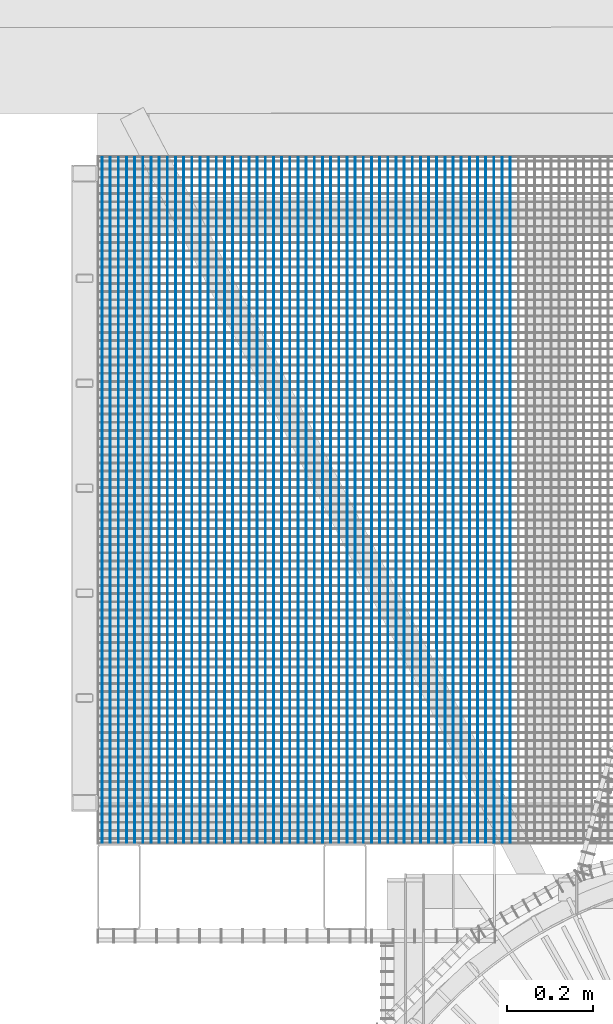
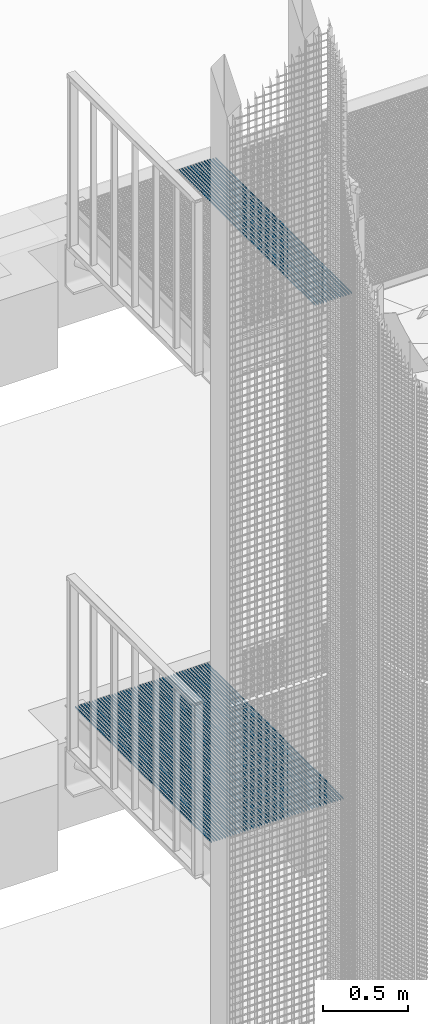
# One storey, part 79 of 1148: 62 beams, 2 elements without a shape of their own.
"""IFC2X3 building model written with IfcOpenShell, lengths in millimetres."""

from ifc_helpers import new_model, si_unit, frame, origin_with_axes, origin_2d_with_axis, place, context, subcontext, project, spatial, rectangle, extrude, material, type_object, element, aggregate, save


model = new_model("IFC2X3")

# Units and contexts
model_context = context("Model", 3, precision=1e-05, world=origin_with_axes())
body_context = subcontext(model_context, "Body", "Model", "MODEL_VIEW")
ifc_project = project(units=[si_unit("LENGTHUNIT", "METRE", prefix="MILLI"), si_unit("AREAUNIT", "SQUARE_METRE"), si_unit("VOLUMEUNIT", "CUBIC_METRE"), si_unit("MASSUNIT", "GRAM", prefix="KILO"), si_unit("TIMEUNIT", "SECOND"), si_unit("PLANEANGLEUNIT", "RADIAN"), si_unit("SOLIDANGLEUNIT", "STERADIAN"), si_unit("THERMODYNAMICTEMPERATUREUNIT", "DEGREE_CELSIUS"), si_unit("LUMINOUSINTENSITYUNIT", "LUMEN")], contexts=[model_context])

# Site, building, storey
site_placement = place(None, origin_with_axes())
site = spatial("IfcSite", under=ifc_project, at=site_placement, Name="Undefined", CompositionType="ELEMENT")
building_placement = place(site_placement, origin_with_axes())
building = spatial("IfcBuilding", under=site, at=building_placement, Name="Undefined", CompositionType="ELEMENT")
storey_placement = place(building_placement, origin_with_axes())
storey = spatial("IfcBuildingStorey", under=building, at=storey_placement, Name="Undefined", CompositionType="ELEMENT", Elevation=0.0)

# Assembly, beams
assembly_1_placement = place(storey_placement, origin_with_axes())
assembly_1 = element("IfcElementAssembly", 1, at=assembly_1_placement, inside=storey, Name="BORDURE", AssemblyPlace="NOTDEFINED", PredefinedType="NOTDEFINED")
ifc_material = material(Name="STEEL/S235JR")
beam_type = type_object("IfcBeamType", Name="PL2*10", PredefinedType="NOTDEFINED")
beam_1_placement = place(assembly_1_placement, frame((-835.924575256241, 1101.99820422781, 13685.0), z_axis=(0.0, 0.0, 1.0), x_axis=(-4.50599999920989e-06, 0.999999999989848, 0.0)))
beam_1 = element("IfcBeam", 2, at=beam_1_placement, type_object=beam_type, material=ifc_material, Name="ENTRETOISE", context=body_context, shape_type="SweptSolid", body=[
    extrude(rectangle(XDim=2.0, YDim=10.0, at=origin_2d_with_axis()), frame((1596.0000000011, -1.35186458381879e-18, -7.27595761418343e-12), z_axis=(-1.0, 0.0, 0.0), x_axis=(0.0, -1.0, 0.0)), (0.0, 0.0, 1.0), 1596.0),
])
beam_2_placement = place(assembly_1_placement, frame((-816.924575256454, 1101.99829774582, 13685.0), z_axis=(0.0, 0.0, 1.0), x_axis=(-4.50599999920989e-06, 0.999999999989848, 0.0)))
beam_2 = element("IfcBeam", 3, at=beam_2_placement, type_object=beam_type, material=ifc_material, Name="ENTRETOISE", context=body_context, shape_type="SweptSolid", body=[
    extrude(rectangle(XDim=2.0, YDim=10.0, at=origin_2d_with_axis()), frame((1596.0000000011, -1.35186458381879e-18, -7.27595761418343e-12), z_axis=(-1.0, 0.0, 0.0), x_axis=(0.0, -1.0, 0.0)), (0.0, 0.0, 1.0), 1596.0),
])
beam_3_placement = place(assembly_1_placement, frame((-797.924575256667, 1101.99839126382, 13685.0), z_axis=(0.0, 0.0, 1.0), x_axis=(-4.50599999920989e-06, 0.999999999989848, 0.0)))
beam_3 = element("IfcBeam", 4, at=beam_3_placement, type_object=beam_type, material=ifc_material, Name="ENTRETOISE", context=body_context, shape_type="SweptSolid", body=[
    extrude(rectangle(XDim=2.0, YDim=10.0, at=origin_2d_with_axis()), frame((1596.0000000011, -1.35186458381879e-18, -7.27595761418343e-12), z_axis=(-1.0, 0.0, 0.0), x_axis=(0.0, -1.0, 0.0)), (0.0, 0.0, 1.0), 1596.0),
])
beam_4_placement = place(assembly_1_placement, frame((-778.924575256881, 1101.99848478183, 13685.0), z_axis=(0.0, 0.0, 1.0), x_axis=(-4.50599999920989e-06, 0.999999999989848, 0.0)))
beam_4 = element("IfcBeam", 5, at=beam_4_placement, type_object=beam_type, material=ifc_material, Name="ENTRETOISE", context=body_context, shape_type="SweptSolid", body=[
    extrude(rectangle(XDim=2.0, YDim=10.0, at=origin_2d_with_axis()), frame((1596.0000000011, -1.35186458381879e-18, -7.27595761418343e-12), z_axis=(-1.0, 0.0, 0.0), x_axis=(0.0, -1.0, 0.0)), (0.0, 0.0, 1.0), 1596.0),
])
beam_5_placement = place(assembly_1_placement, frame((-759.924575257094, 1101.99857829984, 13685.0), z_axis=(0.0, 0.0, 1.0), x_axis=(-4.50599999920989e-06, 0.999999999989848, 0.0)))
beam_5 = element("IfcBeam", 6, at=beam_5_placement, type_object=beam_type, material=ifc_material, Name="ENTRETOISE", context=body_context, shape_type="SweptSolid", body=[
    extrude(rectangle(XDim=2.0, YDim=10.0, at=origin_2d_with_axis()), frame((1596.0000000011, -1.35186458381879e-18, -7.27595761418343e-12), z_axis=(-1.0, 0.0, 0.0), x_axis=(0.0, -1.0, 0.0)), (0.0, 0.0, 1.0), 1596.0),
])
beam_6_placement = place(assembly_1_placement, frame((-740.924575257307, 1101.99867181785, 13685.0), z_axis=(0.0, 0.0, 1.0), x_axis=(-4.50599999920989e-06, 0.999999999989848, 0.0)))
beam_6 = element("IfcBeam", 7, at=beam_6_placement, type_object=beam_type, material=ifc_material, Name="ENTRETOISE", context=body_context, shape_type="SweptSolid", body=[
    extrude(rectangle(XDim=2.0, YDim=10.0, at=origin_2d_with_axis()), frame((1596.0000000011, -1.35186458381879e-18, -7.27595761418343e-12), z_axis=(-1.0, 0.0, 0.0), x_axis=(0.0, -1.0, 0.0)), (0.0, 0.0, 1.0), 1596.0),
])
beam_7_placement = place(assembly_1_placement, frame((-721.92457525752, 1101.99876533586, 13685.0), z_axis=(0.0, 0.0, 1.0), x_axis=(-4.50599999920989e-06, 0.999999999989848, 0.0)))
beam_7 = element("IfcBeam", 8, at=beam_7_placement, type_object=beam_type, material=ifc_material, Name="ENTRETOISE", context=body_context, shape_type="SweptSolid", body=[
    extrude(rectangle(XDim=2.0, YDim=10.0, at=origin_2d_with_axis()), frame((1596.0000000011, -1.35186458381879e-18, -7.27595761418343e-12), z_axis=(-1.0, 0.0, 0.0), x_axis=(0.0, -1.0, 0.0)), (0.0, 0.0, 1.0), 1596.0),
])
beam_8_placement = place(assembly_1_placement, frame((-702.924575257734, 1101.99885885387, 13685.0), z_axis=(0.0, 0.0, 1.0), x_axis=(-4.50599999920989e-06, 0.999999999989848, 0.0)))
beam_8 = element("IfcBeam", 9, at=beam_8_placement, type_object=beam_type, material=ifc_material, Name="ENTRETOISE", context=body_context, shape_type="SweptSolid", body=[
    extrude(rectangle(XDim=2.0, YDim=10.0, at=origin_2d_with_axis()), frame((1596.0000000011, -1.35186458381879e-18, -7.27595761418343e-12), z_axis=(-1.0, 0.0, 0.0), x_axis=(0.0, -1.0, 0.0)), (0.0, 0.0, 1.0), 1596.0),
])
beam_9_placement = place(assembly_1_placement, frame((-683.924575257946, 1101.99895237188, 13685.0), z_axis=(0.0, 0.0, 1.0), x_axis=(-4.50599999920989e-06, 0.999999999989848, 0.0)))
beam_9 = element("IfcBeam", 10, at=beam_9_placement, type_object=beam_type, material=ifc_material, Name="ENTRETOISE", context=body_context, shape_type="SweptSolid", body=[
    extrude(rectangle(XDim=2.0, YDim=10.0, at=origin_2d_with_axis()), frame((1596.0000000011, -1.35186458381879e-18, -7.27595761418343e-12), z_axis=(-1.0, 0.0, 0.0), x_axis=(0.0, -1.0, 0.0)), (0.0, 0.0, 1.0), 1596.0),
])
beam_10_placement = place(assembly_1_placement, frame((-664.92457525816, 1101.99904588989, 13685.0), z_axis=(0.0, 0.0, 1.0), x_axis=(-4.50599999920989e-06, 0.999999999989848, 0.0)))
beam_10 = element("IfcBeam", 11, at=beam_10_placement, type_object=beam_type, material=ifc_material, Name="ENTRETOISE", context=body_context, shape_type="SweptSolid", body=[
    extrude(rectangle(XDim=2.0, YDim=10.0, at=origin_2d_with_axis()), frame((1596.0000000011, -1.35186458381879e-18, -7.27595761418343e-12), z_axis=(-1.0, 0.0, 0.0), x_axis=(0.0, -1.0, 0.0)), (0.0, 0.0, 1.0), 1596.0),
])
beam_11_placement = place(assembly_1_placement, frame((-645.924575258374, 1101.9991394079, 13685.0), z_axis=(0.0, 0.0, 1.0), x_axis=(-4.50599999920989e-06, 0.999999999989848, 0.0)))
beam_11 = element("IfcBeam", 12, at=beam_11_placement, type_object=beam_type, material=ifc_material, Name="ENTRETOISE", context=body_context, shape_type="SweptSolid", body=[
    extrude(rectangle(XDim=2.0, YDim=10.0, at=origin_2d_with_axis()), frame((1596.0000000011, -1.35186458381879e-18, -7.27595761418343e-12), z_axis=(-1.0, 0.0, 0.0), x_axis=(0.0, -1.0, 0.0)), (0.0, 0.0, 1.0), 1596.0),
])
beam_12_placement = place(assembly_1_placement, frame((-626.924575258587, 1101.99923292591, 13685.0), z_axis=(0.0, 0.0, 1.0), x_axis=(-4.50599999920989e-06, 0.999999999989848, 0.0)))
beam_12 = element("IfcBeam", 13, at=beam_12_placement, type_object=beam_type, material=ifc_material, Name="ENTRETOISE", context=body_context, shape_type="SweptSolid", body=[
    extrude(rectangle(XDim=2.0, YDim=10.0, at=origin_2d_with_axis()), frame((1596.0000000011, -1.35186458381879e-18, -7.27595761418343e-12), z_axis=(-1.0, 0.0, 0.0), x_axis=(0.0, -1.0, 0.0)), (0.0, 0.0, 1.0), 1596.0),
])
beam_13_placement = place(assembly_1_placement, frame((-607.924575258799, 1101.99932644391, 13685.0), z_axis=(0.0, 0.0, 1.0), x_axis=(-4.50599999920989e-06, 0.999999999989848, 0.0)))
beam_13 = element("IfcBeam", 14, at=beam_13_placement, type_object=beam_type, material=ifc_material, Name="ENTRETOISE", context=body_context, shape_type="SweptSolid", body=[
    extrude(rectangle(XDim=2.0, YDim=10.0, at=origin_2d_with_axis()), frame((1596.0000000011, -1.35186458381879e-18, -7.27595761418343e-12), z_axis=(-1.0, 0.0, 0.0), x_axis=(0.0, -1.0, 0.0)), (0.0, 0.0, 1.0), 1596.0),
])
beam_14_placement = place(assembly_1_placement, frame((-588.924575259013, 1101.99941996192, 13685.0), z_axis=(0.0, 0.0, 1.0), x_axis=(-4.50599999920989e-06, 0.999999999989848, 0.0)))
beam_14 = element("IfcBeam", 15, at=beam_14_placement, type_object=beam_type, material=ifc_material, Name="ENTRETOISE", context=body_context, shape_type="SweptSolid", body=[
    extrude(rectangle(XDim=2.0, YDim=10.0, at=origin_2d_with_axis()), frame((1596.0000000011, -1.35186458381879e-18, -7.27595761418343e-12), z_axis=(-1.0, 0.0, 0.0), x_axis=(0.0, -1.0, 0.0)), (0.0, 0.0, 1.0), 1596.0),
])
aggregate(assembly_1, [beam_1, beam_2, beam_3, beam_4, beam_5, beam_6, beam_7, beam_8, beam_9, beam_10, beam_11, beam_12, beam_13, beam_14])

assembly_2_placement = place(storey_placement, origin_with_axes())
assembly_2 = element("IfcElementAssembly", 16, at=assembly_2_placement, inside=storey, Name="BORDURE", AssemblyPlace="NOTDEFINED", PredefinedType="NOTDEFINED")
beam_15_placement = place(assembly_2_placement, frame((-1538.92457524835, 1101.99474406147, 10085.0), z_axis=(0.0, 0.0, 1.0), x_axis=(-4.50599999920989e-06, 0.999999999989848, 0.0)))
beam_15 = element("IfcBeam", 17, at=beam_15_placement, type_object=beam_type, material=ifc_material, Name="ENTRETOISE", context=body_context, shape_type="SweptSolid", body=[
    extrude(rectangle(XDim=2.0, YDim=10.0, at=origin_2d_with_axis()), frame((1596.0000000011, -1.35186458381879e-18, -7.27595761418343e-12), z_axis=(-1.0, 0.0, 0.0), x_axis=(0.0, -1.0, 0.0)), (0.0, 0.0, 1.0), 1596.0),
])
beam_16_placement = place(assembly_2_placement, frame((-1519.92457524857, 1101.99483757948, 10085.0), z_axis=(0.0, 0.0, 1.0), x_axis=(-4.50599999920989e-06, 0.999999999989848, 0.0)))
beam_16 = element("IfcBeam", 18, at=beam_16_placement, type_object=beam_type, material=ifc_material, Name="ENTRETOISE", context=body_context, shape_type="SweptSolid", body=[
    extrude(rectangle(XDim=2.0, YDim=10.0, at=origin_2d_with_axis()), frame((1596.0000000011, -1.35186458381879e-18, -7.27595761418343e-12), z_axis=(-1.0, 0.0, 0.0), x_axis=(0.0, -1.0, 0.0)), (0.0, 0.0, 1.0), 1596.0),
])
beam_17_placement = place(assembly_2_placement, frame((-1500.92457524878, 1101.99493109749, 10085.0), z_axis=(0.0, 0.0, 1.0), x_axis=(-4.50599999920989e-06, 0.999999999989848, 0.0)))
beam_17 = element("IfcBeam", 19, at=beam_17_placement, type_object=beam_type, material=ifc_material, Name="ENTRETOISE", context=body_context, shape_type="SweptSolid", body=[
    extrude(rectangle(XDim=2.0, YDim=10.0, at=origin_2d_with_axis()), frame((1596.0000000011, -1.35186458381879e-18, -7.27595761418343e-12), z_axis=(-1.0, 0.0, 0.0), x_axis=(0.0, -1.0, 0.0)), (0.0, 0.0, 1.0), 1596.0),
])
beam_18_placement = place(assembly_2_placement, frame((-1481.92457524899, 1101.9950246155, 10085.0), z_axis=(0.0, 0.0, 1.0), x_axis=(-4.50599999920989e-06, 0.999999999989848, 0.0)))
beam_18 = element("IfcBeam", 20, at=beam_18_placement, type_object=beam_type, material=ifc_material, Name="ENTRETOISE", context=body_context, shape_type="SweptSolid", body=[
    extrude(rectangle(XDim=2.0, YDim=10.0, at=origin_2d_with_axis()), frame((1596.0000000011, -1.35186458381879e-18, -7.27595761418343e-12), z_axis=(-1.0, 0.0, 0.0), x_axis=(0.0, -1.0, 0.0)), (0.0, 0.0, 1.0), 1596.0),
])
beam_19_placement = place(assembly_2_placement, frame((-1462.92457524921, 1101.99511813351, 10085.0), z_axis=(0.0, 0.0, 1.0), x_axis=(-4.50599999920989e-06, 0.999999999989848, 0.0)))
beam_19 = element("IfcBeam", 21, at=beam_19_placement, type_object=beam_type, material=ifc_material, Name="ENTRETOISE", context=body_context, shape_type="SweptSolid", body=[
    extrude(rectangle(XDim=2.0, YDim=10.0, at=origin_2d_with_axis()), frame((1596.0000000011, -1.35186458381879e-18, -7.27595761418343e-12), z_axis=(-1.0, 0.0, 0.0), x_axis=(0.0, -1.0, 0.0)), (0.0, 0.0, 1.0), 1596.0),
])
beam_20_placement = place(assembly_2_placement, frame((-1443.92457524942, 1101.99521165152, 10085.0), z_axis=(0.0, 0.0, 1.0), x_axis=(-4.50599999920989e-06, 0.999999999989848, 0.0)))
beam_20 = element("IfcBeam", 22, at=beam_20_placement, type_object=beam_type, material=ifc_material, Name="ENTRETOISE", context=body_context, shape_type="SweptSolid", body=[
    extrude(rectangle(XDim=2.0, YDim=10.0, at=origin_2d_with_axis()), frame((1596.0000000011, -1.35186458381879e-18, -7.27595761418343e-12), z_axis=(-1.0, 0.0, 0.0), x_axis=(0.0, -1.0, 0.0)), (0.0, 0.0, 1.0), 1596.0),
])
beam_21_placement = place(assembly_2_placement, frame((-1424.92457524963, 1101.99530516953, 10085.0), z_axis=(0.0, 0.0, 1.0), x_axis=(-4.50599999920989e-06, 0.999999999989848, 0.0)))
beam_21 = element("IfcBeam", 23, at=beam_21_placement, type_object=beam_type, material=ifc_material, Name="ENTRETOISE", context=body_context, shape_type="SweptSolid", body=[
    extrude(rectangle(XDim=2.0, YDim=10.0, at=origin_2d_with_axis()), frame((1596.0000000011, -1.35186458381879e-18, -7.27595761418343e-12), z_axis=(-1.0, 0.0, 0.0), x_axis=(0.0, -1.0, 0.0)), (0.0, 0.0, 1.0), 1596.0),
])
beam_22_placement = place(assembly_2_placement, frame((-1405.92457524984, 1101.99539868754, 10085.0), z_axis=(0.0, 0.0, 1.0), x_axis=(-4.50599999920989e-06, 0.999999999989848, 0.0)))
beam_22 = element("IfcBeam", 24, at=beam_22_placement, type_object=beam_type, material=ifc_material, Name="ENTRETOISE", context=body_context, shape_type="SweptSolid", body=[
    extrude(rectangle(XDim=2.0, YDim=10.0, at=origin_2d_with_axis()), frame((1596.0000000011, -1.35186458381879e-18, -7.27595761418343e-12), z_axis=(-1.0, 0.0, 0.0), x_axis=(0.0, -1.0, 0.0)), (0.0, 0.0, 1.0), 1596.0),
])
beam_23_placement = place(assembly_2_placement, frame((-1386.92457525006, 1101.99549220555, 10085.0), z_axis=(0.0, 0.0, 1.0), x_axis=(-4.50599999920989e-06, 0.999999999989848, 0.0)))
beam_23 = element("IfcBeam", 25, at=beam_23_placement, type_object=beam_type, material=ifc_material, Name="ENTRETOISE", context=body_context, shape_type="SweptSolid", body=[
    extrude(rectangle(XDim=2.0, YDim=10.0, at=origin_2d_with_axis()), frame((1596.0000000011, -1.35186458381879e-18, -7.27595761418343e-12), z_axis=(-1.0, 0.0, 0.0), x_axis=(0.0, -1.0, 0.0)), (0.0, 0.0, 1.0), 1596.0),
])
beam_24_placement = place(assembly_2_placement, frame((-1367.92457525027, 1101.99558572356, 10085.0), z_axis=(0.0, 0.0, 1.0), x_axis=(-4.50599999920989e-06, 0.999999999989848, 0.0)))
beam_24 = element("IfcBeam", 26, at=beam_24_placement, type_object=beam_type, material=ifc_material, Name="ENTRETOISE", context=body_context, shape_type="SweptSolid", body=[
    extrude(rectangle(XDim=2.0, YDim=10.0, at=origin_2d_with_axis()), frame((1596.0000000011, -1.35186458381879e-18, -7.27595761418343e-12), z_axis=(-1.0, 0.0, 0.0), x_axis=(0.0, -1.0, 0.0)), (0.0, 0.0, 1.0), 1596.0),
])
beam_25_placement = place(assembly_2_placement, frame((-1348.92457525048, 1101.99567924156, 10085.0), z_axis=(0.0, 0.0, 1.0), x_axis=(-4.50599999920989e-06, 0.999999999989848, 0.0)))
beam_25 = element("IfcBeam", 27, at=beam_25_placement, type_object=beam_type, material=ifc_material, Name="ENTRETOISE", context=body_context, shape_type="SweptSolid", body=[
    extrude(rectangle(XDim=2.0, YDim=10.0, at=origin_2d_with_axis()), frame((1596.0000000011, -1.35186458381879e-18, -7.27595761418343e-12), z_axis=(-1.0, 0.0, 0.0), x_axis=(0.0, -1.0, 0.0)), (0.0, 0.0, 1.0), 1596.0),
])
beam_26_placement = place(assembly_2_placement, frame((-1329.9245752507, 1101.99577275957, 10085.0), z_axis=(0.0, 0.0, 1.0), x_axis=(-4.50599999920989e-06, 0.999999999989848, 0.0)))
beam_26 = element("IfcBeam", 28, at=beam_26_placement, type_object=beam_type, material=ifc_material, Name="ENTRETOISE", context=body_context, shape_type="SweptSolid", body=[
    extrude(rectangle(XDim=2.0, YDim=10.0, at=origin_2d_with_axis()), frame((1596.0000000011, -1.35186458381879e-18, -7.27595761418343e-12), z_axis=(-1.0, 0.0, 0.0), x_axis=(0.0, -1.0, 0.0)), (0.0, 0.0, 1.0), 1596.0),
])
beam_27_placement = place(assembly_2_placement, frame((-1310.92457525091, 1101.99586627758, 10085.0), z_axis=(0.0, 0.0, 1.0), x_axis=(-4.50599999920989e-06, 0.999999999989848, 0.0)))
beam_27 = element("IfcBeam", 29, at=beam_27_placement, type_object=beam_type, material=ifc_material, Name="ENTRETOISE", context=body_context, shape_type="SweptSolid", body=[
    extrude(rectangle(XDim=2.0, YDim=10.0, at=origin_2d_with_axis()), frame((1596.0000000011, -1.35186458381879e-18, -7.27595761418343e-12), z_axis=(-1.0, 0.0, 0.0), x_axis=(0.0, -1.0, 0.0)), (0.0, 0.0, 1.0), 1596.0),
])
beam_28_placement = place(assembly_2_placement, frame((-1291.92457525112, 1101.99595979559, 10085.0), z_axis=(0.0, 0.0, 1.0), x_axis=(-4.50599999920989e-06, 0.999999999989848, 0.0)))
beam_28 = element("IfcBeam", 30, at=beam_28_placement, type_object=beam_type, material=ifc_material, Name="ENTRETOISE", context=body_context, shape_type="SweptSolid", body=[
    extrude(rectangle(XDim=2.0, YDim=10.0, at=origin_2d_with_axis()), frame((1596.0000000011, -1.35186458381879e-18, -7.27595761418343e-12), z_axis=(-1.0, 0.0, 0.0), x_axis=(0.0, -1.0, 0.0)), (0.0, 0.0, 1.0), 1596.0),
])
beam_29_placement = place(assembly_2_placement, frame((-1272.92457525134, 1101.9960533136, 10085.0), z_axis=(0.0, 0.0, 1.0), x_axis=(-4.50599999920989e-06, 0.999999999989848, 0.0)))
beam_29 = element("IfcBeam", 31, at=beam_29_placement, type_object=beam_type, material=ifc_material, Name="ENTRETOISE", context=body_context, shape_type="SweptSolid", body=[
    extrude(rectangle(XDim=2.0, YDim=10.0, at=origin_2d_with_axis()), frame((1596.0000000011, -1.35186458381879e-18, -7.27595761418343e-12), z_axis=(-1.0, 0.0, 0.0), x_axis=(0.0, -1.0, 0.0)), (0.0, 0.0, 1.0), 1596.0),
])
beam_30_placement = place(assembly_2_placement, frame((-1253.92457525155, 1101.99614683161, 10085.0), z_axis=(0.0, 0.0, 1.0), x_axis=(-4.50599999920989e-06, 0.999999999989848, 0.0)))
beam_30 = element("IfcBeam", 32, at=beam_30_placement, type_object=beam_type, material=ifc_material, Name="ENTRETOISE", context=body_context, shape_type="SweptSolid", body=[
    extrude(rectangle(XDim=2.0, YDim=10.0, at=origin_2d_with_axis()), frame((1596.0000000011, -1.35186458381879e-18, -7.27595761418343e-12), z_axis=(-1.0, 0.0, 0.0), x_axis=(0.0, -1.0, 0.0)), (0.0, 0.0, 1.0), 1596.0),
])
beam_31_placement = place(assembly_2_placement, frame((-1234.92457525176, 1101.99624034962, 10085.0), z_axis=(0.0, 0.0, 1.0), x_axis=(-4.50599999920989e-06, 0.999999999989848, 0.0)))
beam_31 = element("IfcBeam", 33, at=beam_31_placement, type_object=beam_type, material=ifc_material, Name="ENTRETOISE", context=body_context, shape_type="SweptSolid", body=[
    extrude(rectangle(XDim=2.0, YDim=10.0, at=origin_2d_with_axis()), frame((1596.0000000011, -1.35186458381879e-18, -7.27595761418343e-12), z_axis=(-1.0, 0.0, 0.0), x_axis=(0.0, -1.0, 0.0)), (0.0, 0.0, 1.0), 1596.0),
])
beam_32_placement = place(assembly_2_placement, frame((-1215.92457525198, 1101.99633386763, 10085.0), z_axis=(0.0, 0.0, 1.0), x_axis=(-4.50599999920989e-06, 0.999999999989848, 0.0)))
beam_32 = element("IfcBeam", 34, at=beam_32_placement, type_object=beam_type, material=ifc_material, Name="ENTRETOISE", context=body_context, shape_type="SweptSolid", body=[
    extrude(rectangle(XDim=2.0, YDim=10.0, at=origin_2d_with_axis()), frame((1596.0000000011, -1.35186458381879e-18, -7.27595761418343e-12), z_axis=(-1.0, 0.0, 0.0), x_axis=(0.0, -1.0, 0.0)), (0.0, 0.0, 1.0), 1596.0),
])
beam_33_placement = place(assembly_2_placement, frame((-1196.92457525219, 1101.99642738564, 10085.0), z_axis=(0.0, 0.0, 1.0), x_axis=(-4.50599999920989e-06, 0.999999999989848, 0.0)))
beam_33 = element("IfcBeam", 35, at=beam_33_placement, type_object=beam_type, material=ifc_material, Name="ENTRETOISE", context=body_context, shape_type="SweptSolid", body=[
    extrude(rectangle(XDim=2.0, YDim=10.0, at=origin_2d_with_axis()), frame((1596.0000000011, -1.35186458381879e-18, -7.27595761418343e-12), z_axis=(-1.0, 0.0, 0.0), x_axis=(0.0, -1.0, 0.0)), (0.0, 0.0, 1.0), 1596.0),
])
beam_34_placement = place(assembly_2_placement, frame((-1177.9245752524, 1101.99652090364, 10085.0), z_axis=(0.0, 0.0, 1.0), x_axis=(-4.50599999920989e-06, 0.999999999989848, 0.0)))
beam_34 = element("IfcBeam", 36, at=beam_34_placement, type_object=beam_type, material=ifc_material, Name="ENTRETOISE", context=body_context, shape_type="SweptSolid", body=[
    extrude(rectangle(XDim=2.0, YDim=10.0, at=origin_2d_with_axis()), frame((1596.0000000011, -1.35186458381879e-18, -7.27595761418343e-12), z_axis=(-1.0, 0.0, 0.0), x_axis=(0.0, -1.0, 0.0)), (0.0, 0.0, 1.0), 1596.0),
])
beam_35_placement = place(assembly_2_placement, frame((-1158.92457525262, 1101.99661442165, 10085.0), z_axis=(0.0, 0.0, 1.0), x_axis=(-4.50599999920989e-06, 0.999999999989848, 0.0)))
beam_35 = element("IfcBeam", 37, at=beam_35_placement, type_object=beam_type, material=ifc_material, Name="ENTRETOISE", context=body_context, shape_type="SweptSolid", body=[
    extrude(rectangle(XDim=2.0, YDim=10.0, at=origin_2d_with_axis()), frame((1596.0000000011, -1.35186458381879e-18, -7.27595761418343e-12), z_axis=(-1.0, 0.0, 0.0), x_axis=(0.0, -1.0, 0.0)), (0.0, 0.0, 1.0), 1596.0),
])
beam_36_placement = place(assembly_2_placement, frame((-1139.92457525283, 1101.99670793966, 10085.0), z_axis=(0.0, 0.0, 1.0), x_axis=(-4.50599999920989e-06, 0.999999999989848, 0.0)))
beam_36 = element("IfcBeam", 38, at=beam_36_placement, type_object=beam_type, material=ifc_material, Name="ENTRETOISE", context=body_context, shape_type="SweptSolid", body=[
    extrude(rectangle(XDim=2.0, YDim=10.0, at=origin_2d_with_axis()), frame((1596.0000000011, -1.35186458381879e-18, -7.27595761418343e-12), z_axis=(-1.0, 0.0, 0.0), x_axis=(0.0, -1.0, 0.0)), (0.0, 0.0, 1.0), 1596.0),
])
beam_37_placement = place(assembly_2_placement, frame((-1120.92457525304, 1101.99680145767, 10085.0), z_axis=(0.0, 0.0, 1.0), x_axis=(-4.50599999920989e-06, 0.999999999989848, 0.0)))
beam_37 = element("IfcBeam", 39, at=beam_37_placement, type_object=beam_type, material=ifc_material, Name="ENTRETOISE", context=body_context, shape_type="SweptSolid", body=[
    extrude(rectangle(XDim=2.0, YDim=10.0, at=origin_2d_with_axis()), frame((1596.0000000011, -1.35186458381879e-18, -7.27595761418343e-12), z_axis=(-1.0, 0.0, 0.0), x_axis=(0.0, -1.0, 0.0)), (0.0, 0.0, 1.0), 1596.0),
])
beam_38_placement = place(assembly_2_placement, frame((-1101.92457525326, 1101.99689497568, 10085.0), z_axis=(0.0, 0.0, 1.0), x_axis=(-4.50599999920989e-06, 0.999999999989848, 0.0)))
beam_38 = element("IfcBeam", 40, at=beam_38_placement, type_object=beam_type, material=ifc_material, Name="ENTRETOISE", context=body_context, shape_type="SweptSolid", body=[
    extrude(rectangle(XDim=2.0, YDim=10.0, at=origin_2d_with_axis()), frame((1596.0000000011, -1.35186458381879e-18, -7.27595761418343e-12), z_axis=(-1.0, 0.0, 0.0), x_axis=(0.0, -1.0, 0.0)), (0.0, 0.0, 1.0), 1596.0),
])
beam_39_placement = place(assembly_2_placement, frame((-1082.92457525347, 1101.99698849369, 10085.0), z_axis=(0.0, 0.0, 1.0), x_axis=(-4.50599999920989e-06, 0.999999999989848, 0.0)))
beam_39 = element("IfcBeam", 41, at=beam_39_placement, type_object=beam_type, material=ifc_material, Name="ENTRETOISE", context=body_context, shape_type="SweptSolid", body=[
    extrude(rectangle(XDim=2.0, YDim=10.0, at=origin_2d_with_axis()), frame((1596.0000000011, -1.35186458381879e-18, -7.27595761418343e-12), z_axis=(-1.0, 0.0, 0.0), x_axis=(0.0, -1.0, 0.0)), (0.0, 0.0, 1.0), 1596.0),
])
beam_40_placement = place(assembly_2_placement, frame((-1063.92457525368, 1101.9970820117, 10085.0), z_axis=(0.0, 0.0, 1.0), x_axis=(-4.50599999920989e-06, 0.999999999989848, 0.0)))
beam_40 = element("IfcBeam", 42, at=beam_40_placement, type_object=beam_type, material=ifc_material, Name="ENTRETOISE", context=body_context, shape_type="SweptSolid", body=[
    extrude(rectangle(XDim=2.0, YDim=10.0, at=origin_2d_with_axis()), frame((1596.0000000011, -1.35186458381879e-18, -7.27595761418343e-12), z_axis=(-1.0, 0.0, 0.0), x_axis=(0.0, -1.0, 0.0)), (0.0, 0.0, 1.0), 1596.0),
])
beam_41_placement = place(assembly_2_placement, frame((-1044.9245752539, 1101.99717552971, 10085.0), z_axis=(0.0, 0.0, 1.0), x_axis=(-4.50599999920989e-06, 0.999999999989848, 0.0)))
beam_41 = element("IfcBeam", 43, at=beam_41_placement, type_object=beam_type, material=ifc_material, Name="ENTRETOISE", context=body_context, shape_type="SweptSolid", body=[
    extrude(rectangle(XDim=2.0, YDim=10.0, at=origin_2d_with_axis()), frame((1596.0000000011, -1.35186458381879e-18, -7.27595761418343e-12), z_axis=(-1.0, 0.0, 0.0), x_axis=(0.0, -1.0, 0.0)), (0.0, 0.0, 1.0), 1596.0),
])
beam_42_placement = place(assembly_2_placement, frame((-1025.92457525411, 1101.99726904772, 10085.0), z_axis=(0.0, 0.0, 1.0), x_axis=(-4.50599999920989e-06, 0.999999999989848, 0.0)))
beam_42 = element("IfcBeam", 44, at=beam_42_placement, type_object=beam_type, material=ifc_material, Name="ENTRETOISE", context=body_context, shape_type="SweptSolid", body=[
    extrude(rectangle(XDim=2.0, YDim=10.0, at=origin_2d_with_axis()), frame((1596.0000000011, -1.35186458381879e-18, -7.27595761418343e-12), z_axis=(-1.0, 0.0, 0.0), x_axis=(0.0, -1.0, 0.0)), (0.0, 0.0, 1.0), 1596.0),
])
beam_43_placement = place(assembly_2_placement, frame((-1006.92457525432, 1101.99736256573, 10085.0), z_axis=(0.0, 0.0, 1.0), x_axis=(-4.50599999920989e-06, 0.999999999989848, 0.0)))
beam_43 = element("IfcBeam", 45, at=beam_43_placement, type_object=beam_type, material=ifc_material, Name="ENTRETOISE", context=body_context, shape_type="SweptSolid", body=[
    extrude(rectangle(XDim=2.0, YDim=10.0, at=origin_2d_with_axis()), frame((1596.0000000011, -1.35186458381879e-18, -7.27595761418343e-12), z_axis=(-1.0, 0.0, 0.0), x_axis=(0.0, -1.0, 0.0)), (0.0, 0.0, 1.0), 1596.0),
])
beam_44_placement = place(assembly_2_placement, frame((-987.924575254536, 1101.99745608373, 10085.0), z_axis=(0.0, 0.0, 1.0), x_axis=(-4.50599999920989e-06, 0.999999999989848, 0.0)))
beam_44 = element("IfcBeam", 46, at=beam_44_placement, type_object=beam_type, material=ifc_material, Name="ENTRETOISE", context=body_context, shape_type="SweptSolid", body=[
    extrude(rectangle(XDim=2.0, YDim=10.0, at=origin_2d_with_axis()), frame((1596.0000000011, -1.35186458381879e-18, -7.27595761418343e-12), z_axis=(-1.0, 0.0, 0.0), x_axis=(0.0, -1.0, 0.0)), (0.0, 0.0, 1.0), 1596.0),
])
beam_45_placement = place(assembly_2_placement, frame((-968.924575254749, 1101.99754960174, 10085.0), z_axis=(0.0, 0.0, 1.0), x_axis=(-4.50599999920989e-06, 0.999999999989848, 0.0)))
beam_45 = element("IfcBeam", 47, at=beam_45_placement, type_object=beam_type, material=ifc_material, Name="ENTRETOISE", context=body_context, shape_type="SweptSolid", body=[
    extrude(rectangle(XDim=2.0, YDim=10.0, at=origin_2d_with_axis()), frame((1596.0000000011, -1.35186458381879e-18, -7.27595761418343e-12), z_axis=(-1.0, 0.0, 0.0), x_axis=(0.0, -1.0, 0.0)), (0.0, 0.0, 1.0), 1596.0),
])
beam_46_placement = place(assembly_2_placement, frame((-949.924575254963, 1101.99764311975, 10085.0), z_axis=(0.0, 0.0, 1.0), x_axis=(-4.50599999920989e-06, 0.999999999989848, 0.0)))
beam_46 = element("IfcBeam", 48, at=beam_46_placement, type_object=beam_type, material=ifc_material, Name="ENTRETOISE", context=body_context, shape_type="SweptSolid", body=[
    extrude(rectangle(XDim=2.0, YDim=10.0, at=origin_2d_with_axis()), frame((1596.0000000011, -1.35186458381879e-18, -7.27595761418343e-12), z_axis=(-1.0, 0.0, 0.0), x_axis=(0.0, -1.0, 0.0)), (0.0, 0.0, 1.0), 1596.0),
])
beam_47_placement = place(assembly_2_placement, frame((-930.924575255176, 1101.99773663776, 10085.0), z_axis=(0.0, 0.0, 1.0), x_axis=(-4.50599999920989e-06, 0.999999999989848, 0.0)))
beam_47 = element("IfcBeam", 49, at=beam_47_placement, type_object=beam_type, material=ifc_material, Name="ENTRETOISE", context=body_context, shape_type="SweptSolid", body=[
    extrude(rectangle(XDim=2.0, YDim=10.0, at=origin_2d_with_axis()), frame((1596.0000000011, -1.35186458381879e-18, -7.27595761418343e-12), z_axis=(-1.0, 0.0, 0.0), x_axis=(0.0, -1.0, 0.0)), (0.0, 0.0, 1.0), 1596.0),
])
beam_48_placement = place(assembly_2_placement, frame((-911.924575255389, 1101.99783015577, 10085.0), z_axis=(0.0, 0.0, 1.0), x_axis=(-4.50599999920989e-06, 0.999999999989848, 0.0)))
beam_48 = element("IfcBeam", 50, at=beam_48_placement, type_object=beam_type, material=ifc_material, Name="ENTRETOISE", context=body_context, shape_type="SweptSolid", body=[
    extrude(rectangle(XDim=2.0, YDim=10.0, at=origin_2d_with_axis()), frame((1596.0000000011, -1.35186458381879e-18, -7.27595761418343e-12), z_axis=(-1.0, 0.0, 0.0), x_axis=(0.0, -1.0, 0.0)), (0.0, 0.0, 1.0), 1596.0),
])
beam_49_placement = place(assembly_2_placement, frame((-892.924575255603, 1101.99792367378, 10085.0), z_axis=(0.0, 0.0, 1.0), x_axis=(-4.50599999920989e-06, 0.999999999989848, 0.0)))
beam_49 = element("IfcBeam", 51, at=beam_49_placement, type_object=beam_type, material=ifc_material, Name="ENTRETOISE", context=body_context, shape_type="SweptSolid", body=[
    extrude(rectangle(XDim=2.0, YDim=10.0, at=origin_2d_with_axis()), frame((1596.0000000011, -1.35186458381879e-18, -7.27595761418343e-12), z_axis=(-1.0, 0.0, 0.0), x_axis=(0.0, -1.0, 0.0)), (0.0, 0.0, 1.0), 1596.0),
])
beam_50_placement = place(assembly_2_placement, frame((-873.924575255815, 1101.99801719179, 10085.0), z_axis=(0.0, 0.0, 1.0), x_axis=(-4.50599999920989e-06, 0.999999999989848, 0.0)))
beam_50 = element("IfcBeam", 52, at=beam_50_placement, type_object=beam_type, material=ifc_material, Name="ENTRETOISE", context=body_context, shape_type="SweptSolid", body=[
    extrude(rectangle(XDim=2.0, YDim=10.0, at=origin_2d_with_axis()), frame((1596.0000000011, -1.35186458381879e-18, -7.27595761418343e-12), z_axis=(-1.0, 0.0, 0.0), x_axis=(0.0, -1.0, 0.0)), (0.0, 0.0, 1.0), 1596.0),
])
beam_51_placement = place(assembly_2_placement, frame((-854.924575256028, 1101.9981107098, 10085.0), z_axis=(0.0, 0.0, 1.0), x_axis=(-4.50599999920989e-06, 0.999999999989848, 0.0)))
beam_51 = element("IfcBeam", 53, at=beam_51_placement, type_object=beam_type, material=ifc_material, Name="ENTRETOISE", context=body_context, shape_type="SweptSolid", body=[
    extrude(rectangle(XDim=2.0, YDim=10.0, at=origin_2d_with_axis()), frame((1596.0000000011, -1.35186458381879e-18, -7.27595761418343e-12), z_axis=(-1.0, 0.0, 0.0), x_axis=(0.0, -1.0, 0.0)), (0.0, 0.0, 1.0), 1596.0),
])
beam_52_placement = place(assembly_2_placement, frame((-835.924575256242, 1101.99820422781, 10085.0), z_axis=(0.0, 0.0, 1.0), x_axis=(-4.50599999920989e-06, 0.999999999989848, 0.0)))
beam_52 = element("IfcBeam", 54, at=beam_52_placement, type_object=beam_type, material=ifc_material, Name="ENTRETOISE", context=body_context, shape_type="SweptSolid", body=[
    extrude(rectangle(XDim=2.0, YDim=10.0, at=origin_2d_with_axis()), frame((1596.0000000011, -1.35186458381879e-18, -7.27595761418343e-12), z_axis=(-1.0, 0.0, 0.0), x_axis=(0.0, -1.0, 0.0)), (0.0, 0.0, 1.0), 1596.0),
])
beam_53_placement = place(assembly_2_placement, frame((-816.924575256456, 1101.99829774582, 10085.0), z_axis=(0.0, 0.0, 1.0), x_axis=(-4.50599999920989e-06, 0.999999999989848, 0.0)))
beam_53 = element("IfcBeam", 55, at=beam_53_placement, type_object=beam_type, material=ifc_material, Name="ENTRETOISE", context=body_context, shape_type="SweptSolid", body=[
    extrude(rectangle(XDim=2.0, YDim=10.0, at=origin_2d_with_axis()), frame((1596.0000000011, -1.35186458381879e-18, -7.27595761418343e-12), z_axis=(-1.0, 0.0, 0.0), x_axis=(0.0, -1.0, 0.0)), (0.0, 0.0, 1.0), 1596.0),
])
beam_54_placement = place(assembly_2_placement, frame((-797.924575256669, 1101.99839126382, 10085.0), z_axis=(0.0, 0.0, 1.0), x_axis=(-4.50599999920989e-06, 0.999999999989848, 0.0)))
beam_54 = element("IfcBeam", 56, at=beam_54_placement, type_object=beam_type, material=ifc_material, Name="ENTRETOISE", context=body_context, shape_type="SweptSolid", body=[
    extrude(rectangle(XDim=2.0, YDim=10.0, at=origin_2d_with_axis()), frame((1596.0000000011, -1.35186458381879e-18, -7.27595761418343e-12), z_axis=(-1.0, 0.0, 0.0), x_axis=(0.0, -1.0, 0.0)), (0.0, 0.0, 1.0), 1596.0),
])
beam_55_placement = place(assembly_2_placement, frame((-778.924575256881, 1101.99848478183, 10085.0), z_axis=(0.0, 0.0, 1.0), x_axis=(-4.50599999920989e-06, 0.999999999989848, 0.0)))
beam_55 = element("IfcBeam", 57, at=beam_55_placement, type_object=beam_type, material=ifc_material, Name="ENTRETOISE", context=body_context, shape_type="SweptSolid", body=[
    extrude(rectangle(XDim=2.0, YDim=10.0, at=origin_2d_with_axis()), frame((1596.0000000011, -1.35186458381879e-18, -7.27595761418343e-12), z_axis=(-1.0, 0.0, 0.0), x_axis=(0.0, -1.0, 0.0)), (0.0, 0.0, 1.0), 1596.0),
])
beam_56_placement = place(assembly_2_placement, frame((-759.924575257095, 1101.99857829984, 10085.0), z_axis=(0.0, 0.0, 1.0), x_axis=(-4.50599999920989e-06, 0.999999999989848, 0.0)))
beam_56 = element("IfcBeam", 58, at=beam_56_placement, type_object=beam_type, material=ifc_material, Name="ENTRETOISE", context=body_context, shape_type="SweptSolid", body=[
    extrude(rectangle(XDim=2.0, YDim=10.0, at=origin_2d_with_axis()), frame((1596.0000000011, -1.35186458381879e-18, -7.27595761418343e-12), z_axis=(-1.0, 0.0, 0.0), x_axis=(0.0, -1.0, 0.0)), (0.0, 0.0, 1.0), 1596.0),
])
beam_57_placement = place(assembly_2_placement, frame((-740.924575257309, 1101.99867181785, 10085.0), z_axis=(0.0, 0.0, 1.0), x_axis=(-4.50599999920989e-06, 0.999999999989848, 0.0)))
beam_57 = element("IfcBeam", 59, at=beam_57_placement, type_object=beam_type, material=ifc_material, Name="ENTRETOISE", context=body_context, shape_type="SweptSolid", body=[
    extrude(rectangle(XDim=2.0, YDim=10.0, at=origin_2d_with_axis()), frame((1596.0000000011, -1.35186458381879e-18, -7.27595761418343e-12), z_axis=(-1.0, 0.0, 0.0), x_axis=(0.0, -1.0, 0.0)), (0.0, 0.0, 1.0), 1596.0),
])
beam_58_placement = place(assembly_2_placement, frame((-721.924575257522, 1101.99876533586, 10085.0), z_axis=(0.0, 0.0, 1.0), x_axis=(-4.50599999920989e-06, 0.999999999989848, 0.0)))
beam_58 = element("IfcBeam", 60, at=beam_58_placement, type_object=beam_type, material=ifc_material, Name="ENTRETOISE", context=body_context, shape_type="SweptSolid", body=[
    extrude(rectangle(XDim=2.0, YDim=10.0, at=origin_2d_with_axis()), frame((1596.0000000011, -1.35186458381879e-18, -7.27595761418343e-12), z_axis=(-1.0, 0.0, 0.0), x_axis=(0.0, -1.0, 0.0)), (0.0, 0.0, 1.0), 1596.0),
])
beam_59_placement = place(assembly_2_placement, frame((-702.924575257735, 1101.99885885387, 10085.0), z_axis=(0.0, 0.0, 1.0), x_axis=(-4.50599999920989e-06, 0.999999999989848, 0.0)))
beam_59 = element("IfcBeam", 61, at=beam_59_placement, type_object=beam_type, material=ifc_material, Name="ENTRETOISE", context=body_context, shape_type="SweptSolid", body=[
    extrude(rectangle(XDim=2.0, YDim=10.0, at=origin_2d_with_axis()), frame((1596.0000000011, -1.35186458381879e-18, -7.27595761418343e-12), z_axis=(-1.0, 0.0, 0.0), x_axis=(0.0, -1.0, 0.0)), (0.0, 0.0, 1.0), 1596.0),
])
beam_60_placement = place(assembly_2_placement, frame((-683.924575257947, 1101.99895237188, 10085.0), z_axis=(0.0, 0.0, 1.0), x_axis=(-4.50599999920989e-06, 0.999999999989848, 0.0)))
beam_60 = element("IfcBeam", 62, at=beam_60_placement, type_object=beam_type, material=ifc_material, Name="ENTRETOISE", context=body_context, shape_type="SweptSolid", body=[
    extrude(rectangle(XDim=2.0, YDim=10.0, at=origin_2d_with_axis()), frame((1596.0000000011, -1.35186458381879e-18, -7.27595761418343e-12), z_axis=(-1.0, 0.0, 0.0), x_axis=(0.0, -1.0, 0.0)), (0.0, 0.0, 1.0), 1596.0),
])
beam_61_placement = place(assembly_2_placement, frame((-664.924575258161, 1101.99904588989, 10085.0), z_axis=(0.0, 0.0, 1.0), x_axis=(-4.50599999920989e-06, 0.999999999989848, 0.0)))
beam_61 = element("IfcBeam", 63, at=beam_61_placement, type_object=beam_type, material=ifc_material, Name="ENTRETOISE", context=body_context, shape_type="SweptSolid", body=[
    extrude(rectangle(XDim=2.0, YDim=10.0, at=origin_2d_with_axis()), frame((1596.0000000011, -1.35186458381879e-18, -7.27595761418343e-12), z_axis=(-1.0, 0.0, 0.0), x_axis=(0.0, -1.0, 0.0)), (0.0, 0.0, 1.0), 1596.0),
])
beam_62_placement = place(assembly_2_placement, frame((-645.924575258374, 1101.9991394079, 10085.0), z_axis=(0.0, 0.0, 1.0), x_axis=(-4.50599999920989e-06, 0.999999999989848, 0.0)))
beam_62 = element("IfcBeam", 64, at=beam_62_placement, type_object=beam_type, material=ifc_material, Name="ENTRETOISE", context=body_context, shape_type="SweptSolid", body=[
    extrude(rectangle(XDim=2.0, YDim=10.0, at=origin_2d_with_axis()), frame((1596.0000000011, -1.35186458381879e-18, -7.27595761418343e-12), z_axis=(-1.0, 0.0, 0.0), x_axis=(0.0, -1.0, 0.0)), (0.0, 0.0, 1.0), 1596.0),
])
aggregate(assembly_2, [beam_15, beam_16, beam_17, beam_18, beam_19, beam_20, beam_21, beam_22, beam_23, beam_24, beam_25, beam_26, beam_27, beam_28, beam_29, beam_30, beam_31, beam_32, beam_33, beam_34, beam_35, beam_36, beam_37, beam_38, beam_39, beam_40, beam_41, beam_42, beam_43, beam_44, beam_45, beam_46, beam_47, beam_48, beam_49, beam_50, beam_51, beam_52, beam_53, beam_54, beam_55, beam_56, beam_57, beam_58, beam_59, beam_60, beam_61, beam_62])

save(model, "model.ifc")
